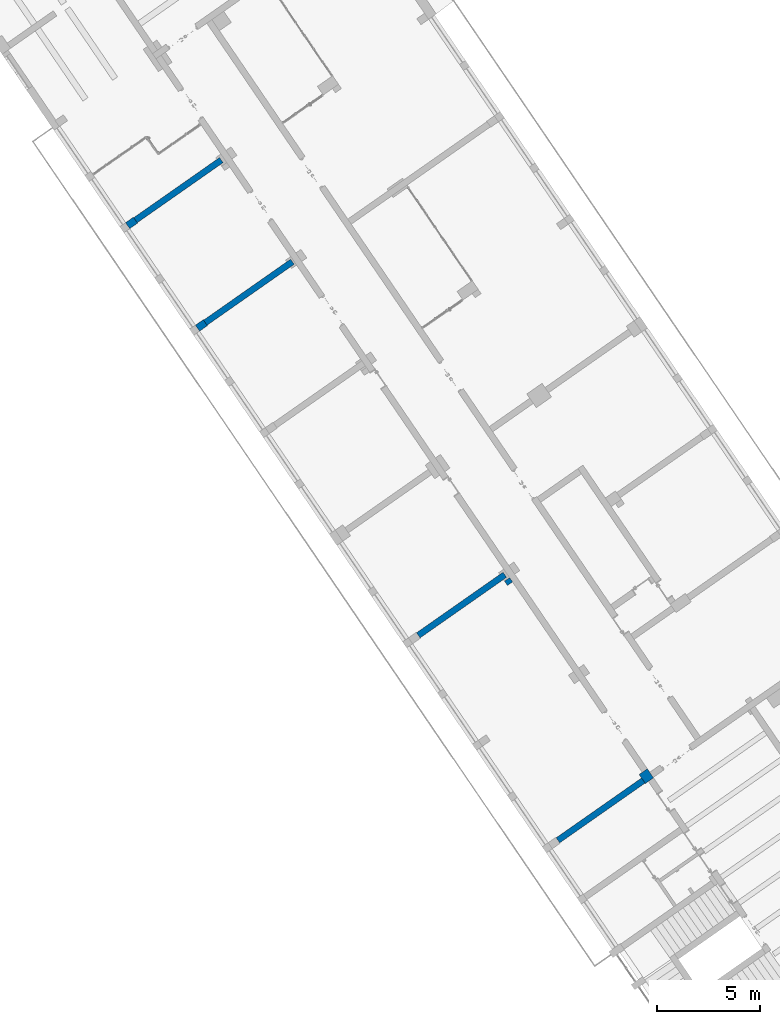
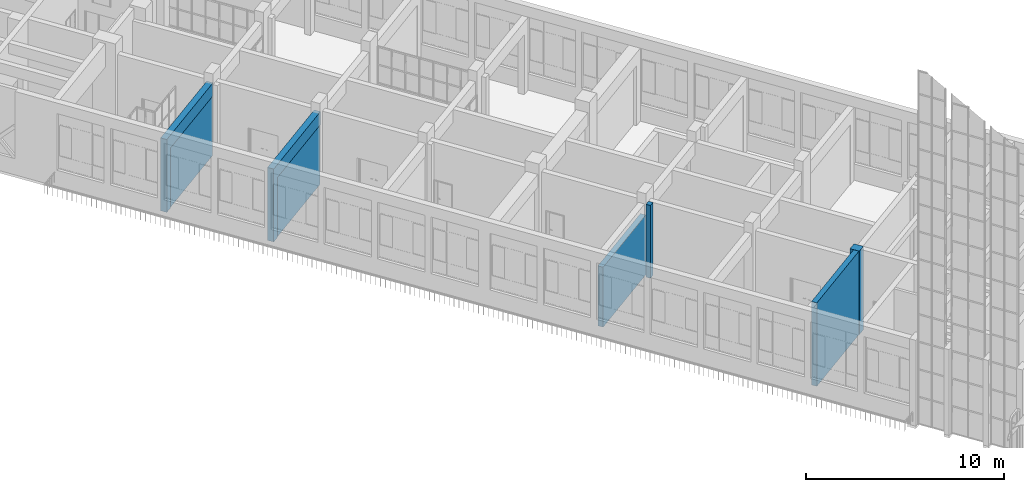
# One storey, part 74 of 157: 8 walls, 2 openings.
"""IFC2X3 building model written with IfcOpenShell, lengths in millimetres."""

from ifc_helpers import new_model, entity, si_unit, converted_unit, derived_unit, direction, frame, frame_2d, origin, place, context, subcontext, project, spatial, polyline, rectangle, outline, extrude, material, layer, layer_set, layer_usage, type_object, element, save


model = new_model("IFC2X3")

# Units and contexts
model_context = context("Model", 3, precision=0.01, world=origin(), true_north=direction((6.123031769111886e-17, 1.0)))
body_context = subcontext(model_context, "Body", "Model", "MODEL_VIEW")
ifc_project = project(units=[si_unit("LENGTHUNIT", "METRE", prefix="MILLI"), si_unit("AREAUNIT", "SQUARE_METRE"), si_unit("VOLUMEUNIT", "CUBIC_METRE"), converted_unit("PLANEANGLEUNIT", "DEGREE", entity("IfcRatioMeasure", 0.017453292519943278), si_unit("PLANEANGLEUNIT", "RADIAN"), dimensions=[0, 0, 0, 0, 0, 0, 0]), si_unit("MASSUNIT", "GRAM", prefix="KILO"), derived_unit("MASSDENSITYUNIT", [(si_unit("MASSUNIT", "GRAM", prefix="KILO"), 1), (si_unit("LENGTHUNIT", "METRE"), -3)]), derived_unit("MOMENTOFINERTIAUNIT", [(si_unit("LENGTHUNIT", "METRE"), 4)]), si_unit("TIMEUNIT", "SECOND"), si_unit("FREQUENCYUNIT", "HERTZ"), si_unit("THERMODYNAMICTEMPERATUREUNIT", "DEGREE_CELSIUS"), derived_unit("THERMALTRANSMITTANCEUNIT", [(si_unit("MASSUNIT", "GRAM", prefix="KILO"), 1), (si_unit("THERMODYNAMICTEMPERATUREUNIT", "KELVIN"), -1), (si_unit("TIMEUNIT", "SECOND"), -3)]), derived_unit("THERMALCONDUCTANCEUNIT", [(si_unit("MASSUNIT", "GRAM", prefix="KILO"), 1), (si_unit("LENGTHUNIT", "METRE"), 1), (si_unit("THERMODYNAMICTEMPERATUREUNIT", "KELVIN"), -1), (si_unit("TIMEUNIT", "SECOND"), -3)]), derived_unit("VOLUMETRICFLOWRATEUNIT", [(si_unit("LENGTHUNIT", "METRE"), 3), (si_unit("TIMEUNIT", "SECOND"), -1)]), derived_unit("MASSFLOWRATEUNIT", [(si_unit("MASSUNIT", "GRAM", prefix="KILO"), 1), (si_unit("TIMEUNIT", "SECOND"), -1)]), derived_unit("ROTATIONALFREQUENCYUNIT", [(si_unit("TIMEUNIT", "SECOND"), -1)]), si_unit("ELECTRICCURRENTUNIT", "AMPERE"), si_unit("ELECTRICVOLTAGEUNIT", "VOLT"), si_unit("POWERUNIT", "WATT"), converted_unit("FORCEUNIT", "KIP", entity("IfcRatioMeasure", 2.088543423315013e-05), si_unit("FORCEUNIT", "NEWTON"), dimensions=[1, 1, -2, 0, 0, 0, 0]), si_unit("ILLUMINANCEUNIT", "LUX"), si_unit("LUMINOUSFLUXUNIT", "LUMEN"), si_unit("LUMINOUSINTENSITYUNIT", "CANDELA"), derived_unit("USERDEFINED", [(si_unit("MASSUNIT", "GRAM", prefix="KILO"), -1), (si_unit("LENGTHUNIT", "METRE"), -2), (si_unit("TIMEUNIT", "SECOND"), 3), (si_unit("LUMINOUSFLUXUNIT", "LUMEN"), 1)]), derived_unit("USERDEFINED", [(si_unit("MASSUNIT", "GRAM", prefix="KILO"), 1), (si_unit("LENGTHUNIT", "METRE"), 3), (si_unit("TIMEUNIT", "SECOND"), -3), (si_unit("ELECTRICCURRENTUNIT", "AMPERE"), -2)]), derived_unit("USERDEFINED", [(si_unit("LENGTHUNIT", "METRE"), 2), (si_unit("TIMEUNIT", "SECOND"), -2)]), derived_unit("SOUNDPOWERUNIT", [(si_unit("MASSUNIT", "GRAM", prefix="KILO"), 1), (si_unit("LENGTHUNIT", "METRE"), 2), (si_unit("TIMEUNIT", "SECOND"), -3)]), derived_unit("SOUNDPRESSUREUNIT", [(si_unit("MASSUNIT", "GRAM", prefix="KILO"), 1), (si_unit("LENGTHUNIT", "METRE"), -1), (si_unit("TIMEUNIT", "SECOND"), -2)]), derived_unit("LINEARVELOCITYUNIT", [(si_unit("LENGTHUNIT", "METRE"), 1), (si_unit("TIMEUNIT", "SECOND"), -1)]), si_unit("PRESSUREUNIT", "PASCAL"), derived_unit("USERDEFINED", [(si_unit("LENGTHUNIT", "METRE"), -2), (si_unit("MASSUNIT", "GRAM", prefix="KILO"), 1), (si_unit("TIMEUNIT", "SECOND"), -2)]), derived_unit("LINEARFORCEUNIT", [(si_unit("MASSUNIT", "GRAM", prefix="KILO"), 1), (si_unit("LENGTHUNIT", "METRE"), 1), (si_unit("TIMEUNIT", "SECOND"), -2), (si_unit("LENGTHUNIT", "METRE"), -1)]), derived_unit("PLANARFORCEUNIT", [(si_unit("MASSUNIT", "GRAM", prefix="KILO"), 1), (si_unit("LENGTHUNIT", "METRE"), 1), (si_unit("TIMEUNIT", "SECOND"), -2), (si_unit("LENGTHUNIT", "METRE"), -2)]), derived_unit("SPECIFICHEATCAPACITYUNIT", [(si_unit("LENGTHUNIT", "METRE"), 2), (si_unit("TIMEUNIT", "SECOND"), -2), (si_unit("THERMODYNAMICTEMPERATUREUNIT", "KELVIN"), -1)]), derived_unit("VAPORPERMEABILITYUNIT", [(si_unit("TIMEUNIT", "SECOND"), 1), (si_unit("LENGTHUNIT", "METRE"), -1)]), derived_unit("DYNAMICVISCOSITYUNIT", [(si_unit("MASSUNIT", "GRAM", prefix="KILO"), 1), (si_unit("LENGTHUNIT", "METRE"), -1), (si_unit("TIMEUNIT", "SECOND"), -1)]), derived_unit("THERMALEXPANSIONCOEFFICIENTUNIT", [(si_unit("THERMODYNAMICTEMPERATUREUNIT", "KELVIN"), -1)])], contexts=[model_context])

# Site, building, storey
site_placement = place(None, frame((0.0, 0.0, 0.0), z_axis=(0.0, 0.0, 1.0), x_axis=(0.8191520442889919, 0.5735764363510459, 0.0)))
site = spatial("IfcSite", under=ifc_project, at=site_placement, Name="Default", CompositionType="ELEMENT")
building_placement = place(site_placement, origin())
building = spatial("IfcBuilding", under=site, at=building_placement, CompositionType="ELEMENT")
storey_placement = place(building_placement, origin())
storey = spatial("IfcBuildingStorey", under=building, at=storey_placement, Name="1.EG +0.00", CompositionType="ELEMENT", Elevation=-4.331468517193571e-12)

# Walls
ifc_material = material(Name="Analytical Wall Surface_CJC")
ifc_layer_1 = layer(ifc_material, 300.0)
ifc_layer_set_1 = layer_set([ifc_layer_1], Name="Basic Wall:Wand_Innen_30")
ifc_layer_usage_1 = layer_usage(ifc_layer_set_1, "AXIS2", "NEGATIVE", 150.0)
wall_type_1 = type_object("IfcWallType", Name="Basic Wall:Wand_Innen_30", PredefinedType="STANDARD", material=ifc_layer_set_1)
wall_1_placement = place(storey_placement, frame((-222061.19396314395, 133694.414326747, 0.0)))
element("IfcWallStandardCase", 1, at=wall_1_placement, inside=storey, type_object=wall_type_1, material=ifc_layer_usage_1, Name="Basic Wall:Wand_Innen_30", ObjectType="Basic Wall:Wand_Innen_30", context=body_context, shape_type="SweptSolid", body=[
    extrude(rectangle(XDim=5105.0, YDim=300.0000000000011, at=frame_2d((2552.5, -1.3358203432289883e-12), x_axis=(-1.0, 0.0))), origin(), (0.0, 0.0, 1.0), 3700.000000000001),
])
wall_2_placement = place(storey_placement, frame((-221827.7163011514, 151994.41432674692, 0.0)))
element("IfcWallStandardCase", 2, at=wall_2_placement, inside=storey, type_object=wall_type_1, material=ifc_layer_usage_1, Name="Basic Wall:Wand_Innen_30", ObjectType="Basic Wall:Wand_Innen_30", context=body_context, shape_type="SweptSolid", body=[
    extrude(rectangle(XDim=5140.481969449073, YDim=300.00000000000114, at=frame_2d((2570.2409847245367, -1.2789769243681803e-12), x_axis=(-1.0, 0.0))), origin(), (0.0, 0.0, 1.0), 3700.0000000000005),
])
wall_3_placement = place(storey_placement, frame((-221751.83991753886, 157994.4143267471, 0.0)))
element("IfcWallStandardCase", 3, at=wall_3_placement, inside=storey, type_object=wall_type_1, material=ifc_layer_usage_1, Name="Basic Wall:Wand_Innen_30", ObjectType="Basic Wall:Wand_Innen_30", context=body_context, shape_type="SweptSolid", body=[
    extrude(rectangle(XDim=5067.763484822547, YDim=300.0000000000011, at=frame_2d((2533.8817424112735, 7.275957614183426e-12), x_axis=(-1.0, 0.0))), origin(), (0.0, 0.0, 1.0), 3700.0000000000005),
])
wall_4_placement = place(storey_placement, frame((-216993.6366610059, 133196.35891435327, 0.0), z_axis=(0.0, 0.0, 1.0), x_axis=(0.0, 1.0, 0.0)))
element("IfcWallStandardCase", 4, at=wall_4_placement, inside=storey, type_object=wall_type_1, material=ifc_layer_usage_1, Name="Basic Wall:Wand_Innen_30", ObjectType="Basic Wall:Wand_Innen_30", context=body_context, shape_type="SweptSolid", body=[
    extrude(rectangle(XDim=249.99999999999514, YDim=300.0000000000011, at=frame_2d((124.99999999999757, 7.105427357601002e-13), x_axis=(-1.0, 0.0))), origin(), (0.0, 0.0, 1.0), 4500.0),
])
wall_5_placement = place(storey_placement, frame((-217174.9087338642, 121696.35891435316, 0.0), z_axis=(0.0, 0.0, 1.0), x_axis=(-1.0, 0.0, 0.0)))
element("IfcWallStandardCase", 5, at=wall_5_placement, inside=storey, type_object=wall_type_1, material=ifc_layer_usage_1, Name="Basic Wall:Wand_Innen_30", ObjectType="Basic Wall:Wand_Innen_30", context=body_context, shape_type="SweptSolid", body=[
    extrude(rectangle(XDim=5041.981543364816, YDim=300.0000000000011, at=frame_2d((2520.990771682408, 2.7995383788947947e-12), x_axis=(-1.0, 0.0))), origin(), (0.0, 0.0, 1.0), 5150.000000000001),
])

# Wall, opening
ifc_layer_2 = layer(ifc_material, 350.0)
ifc_layer_set_2 = layer_set([ifc_layer_2], Name="Basic Wall:Wand_Innen_35")
ifc_layer_usage_2 = layer_usage(ifc_layer_set_2, "AXIS2", "NEGATIVE", 175.0)
wall_type_2 = type_object("IfcWallType", Name="Basic Wall:Wand_Innen_35", PredefinedType="STANDARD", material=ifc_layer_set_2)
wall_6_placement = place(storey_placement, frame((-222289.78105724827, 151994.41432674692, 0.0)))
wall_6 = element("IfcWallStandardCase", 6, at=wall_6_placement, inside=storey, type_object=wall_type_2, material=ifc_layer_usage_2, Name="Basic Wall:Wand_Innen_35", ObjectType="Basic Wall:Wand_Innen_35", context=body_context, shape_type="SweptSolid", body=[
    extrude(rectangle(XDim=5602.546725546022, YDim=349.99999999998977, at=frame_2d((2801.273362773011, -1.0231815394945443e-12), x_axis=(-1.0, 0.0))), origin(), (0.0, 0.0, 1.0), 4499.9999999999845),
])
opening_1_placement = place(wall_6_placement, origin())
element("IfcOpeningElement", 7, at=opening_1_placement, cuts=wall_6, Name="Basic Wall:Wand_Innen_35", ObjectType="Opening", context=body_context, shape_type="SweptSolid", body=[
    extrude(rectangle(XDim=3699.9999999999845, YDim=5140.481969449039, at=frame_2d((0.0, 0.0), x_axis=(0.0, 1.0))), frame((3032.305740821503, 175.0, 1850.0), z_axis=(0.0, -1.0, 0.0), x_axis=(1.0, 0.0, 0.0)), (0.0, 0.0, 1.0), 350.0),
])

wall_7_placement = place(storey_placement, frame((-222213.90467363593, 157994.4143267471, 0.0)))
wall_7 = element("IfcWallStandardCase", 8, at=wall_7_placement, inside=storey, type_object=wall_type_2, material=ifc_layer_usage_2, Name="Basic Wall:Wand_Innen_35", ObjectType="Basic Wall:Wand_Innen_35", context=body_context, shape_type="SweptSolid", body=[
    extrude(rectangle(XDim=5529.828240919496, YDim=350.0000000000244, at=frame_2d((2764.914120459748, 7.531752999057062e-12), x_axis=(-1.0, 0.0))), origin(), (0.0, 0.0, 1.0), 4499.999999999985),
])
opening_2_placement = place(wall_7_placement, origin())
element("IfcOpeningElement", 9, at=opening_2_placement, cuts=wall_7, Name="Basic Wall:Wand_Innen_35", ObjectType="Opening", context=body_context, shape_type="SweptSolid", body=[
    extrude(rectangle(XDim=3699.999999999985, YDim=5067.7634848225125, at=frame_2d((0.0, 0.0), x_axis=(0.0, 1.0))), frame((2995.9464985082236, 175.0, 1850.0), z_axis=(0.0, -1.0, 0.0), x_axis=(1.0, 0.0, 0.0)), (0.0, 0.0, 1.0), 350.0),
])

# Wall
ifc_layer_3 = layer(ifc_material, 530.0)
ifc_layer_set_3 = layer_set([ifc_layer_3], Name="Basic Wall:Wand_Innen_53")
ifc_layer_usage_3 = layer_usage(ifc_layer_set_3, "AXIS2", "NEGATIVE", 265.0)
wall_type_3 = type_object("IfcWallType", Name="Basic Wall:Wand_Innen_53", PredefinedType="STANDARD", material=ifc_layer_set_3)
wall_8_placement = place(storey_placement, frame((-216691.5229651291, 121786.35891435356, 0.0), z_axis=(0.0, 0.0, 1.0), x_axis=(-1.0, 0.0, 0.0)))
element("IfcWallStandardCase", 10, at=wall_8_placement, inside=storey, type_object=wall_type_3, material=ifc_layer_usage_3, Name="Basic Wall:Wand_Innen_53", ObjectType="Basic Wall:Wand_Innen_53", context=body_context, shape_type="SweptSolid", body=[
    extrude(outline(polyline([(483.3857687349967, -265.0), (483.38576873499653, -60.0), (483.3857687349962, 240.0), (483.3857687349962, 265.0), (306.77153746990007, 265.0), (6.865891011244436, 265.0), (6.5476255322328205, 240.0), (2.728439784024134, -60.0), (0.11866285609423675, -265.0), (300.1429721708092, -265.0), (483.3857687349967, -265.0)])), origin(), (0.0, 0.0, 1.0), 5150.000000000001),
])

save(model, "model.ifc")
